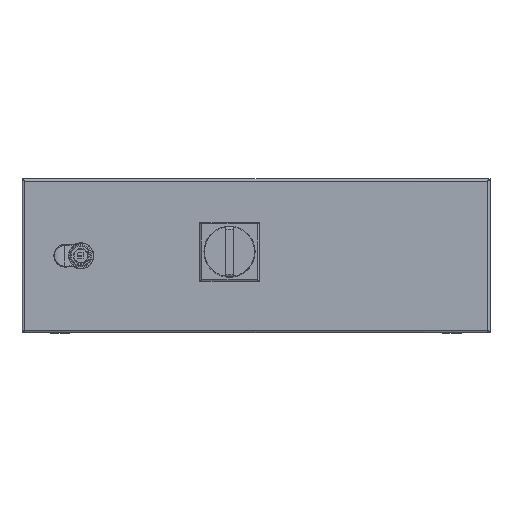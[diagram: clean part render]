
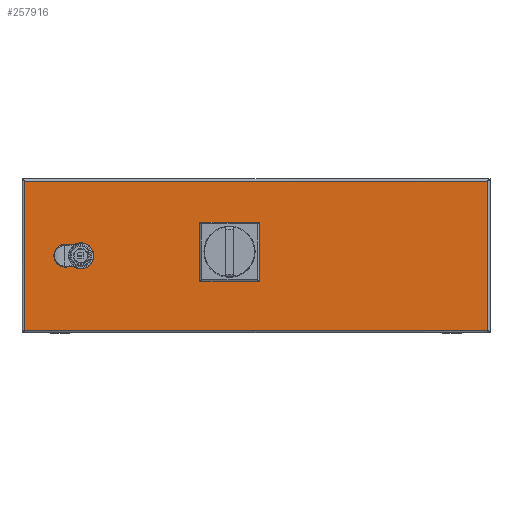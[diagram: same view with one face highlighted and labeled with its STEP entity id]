
A CAD part, top view. The second image highlights one B-rep face of the part: STEP entity #257916.
In plain terms, the highlighted planar face has unit normal (0, 0, 1).
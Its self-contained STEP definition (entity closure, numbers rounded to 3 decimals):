
#251786=CARTESIAN_POINT(' ',(289.389,97.733,233.253));
#251787=VERTEX_POINT(' ',#251786);
#252521=CARTESIAN_POINT(' ',(289.389,-91.667,233.253));
#252522=VERTEX_POINT(' ',#252521);
#253496=CARTESIAN_POINT(' ',(289.389,97.733,233.253));
#253501=DIRECTION(' ',(0.,-1.,0.));
#253506=VECTOR(' ',#253501,1.);
#253511=LINE('',#253496,#253506);
#253516=EDGE_CURVE(' ',#251787,#252522,#253511,.T.);
#255761=CARTESIAN_POINT(' ',(-299.011,-91.667,233.253));
#255762=VERTEX_POINT(' ',#255761);
#256376=CARTESIAN_POINT(' ',(-299.011,97.733,233.253));
#256377=VERTEX_POINT(' ',#256376);
#257786=DIRECTION(' ',(-0.,-0.,1.));
#257791=CARTESIAN_POINT(' ',(289.389,-91.667,233.253));
#257796=DIRECTION(' ',(0.,1.,0.));
#257801=AXIS2_PLACEMENT_3D(' ',#257791,#257786,#257796);
#257806=PLANE('NONE',#257801);
#257811=CARTESIAN_POINT(' ',(-299.011,-91.667,233.253));
#257816=DIRECTION(' ',(1.,0.,0.));
#257821=VECTOR(' ',#257816,1.);
#257826=LINE('',#257811,#257821);
#257831=EDGE_CURVE(' ',#255762,#252522,#257826,.T.);
#257836=ORIENTED_EDGE(' ',*,*,#257831,.T.);
#257841=ORIENTED_EDGE(' ',*,*,#253516,.F.);
#257846=CARTESIAN_POINT(' ',(289.389,97.733,233.253));
#257851=DIRECTION(' ',(-1.,0.,0.));
#257856=VECTOR(' ',#257851,1.);
#257861=LINE('',#257846,#257856);
#257866=EDGE_CURVE(' ',#251787,#256377,#257861,.T.);
#257871=ORIENTED_EDGE(' ',*,*,#257866,.T.);
#257876=CARTESIAN_POINT(' ',(-299.011,97.733,233.253));
#257881=DIRECTION(' ',(0.,-1.,0.));
#257886=VECTOR(' ',#257881,1.);
#257891=LINE('',#257876,#257886);
#257896=EDGE_CURVE(' ',#256377,#255762,#257891,.T.);
#257901=ORIENTED_EDGE(' ',*,*,#257896,.T.);
#257906=EDGE_LOOP(' ',(#257836,#257841,#257871,#257901));
#257911=FACE_OUTER_BOUND(' ',#257906,.T.);
#257916=ADVANCED_FACE('NONE',(#257911),#257806,.T.);
